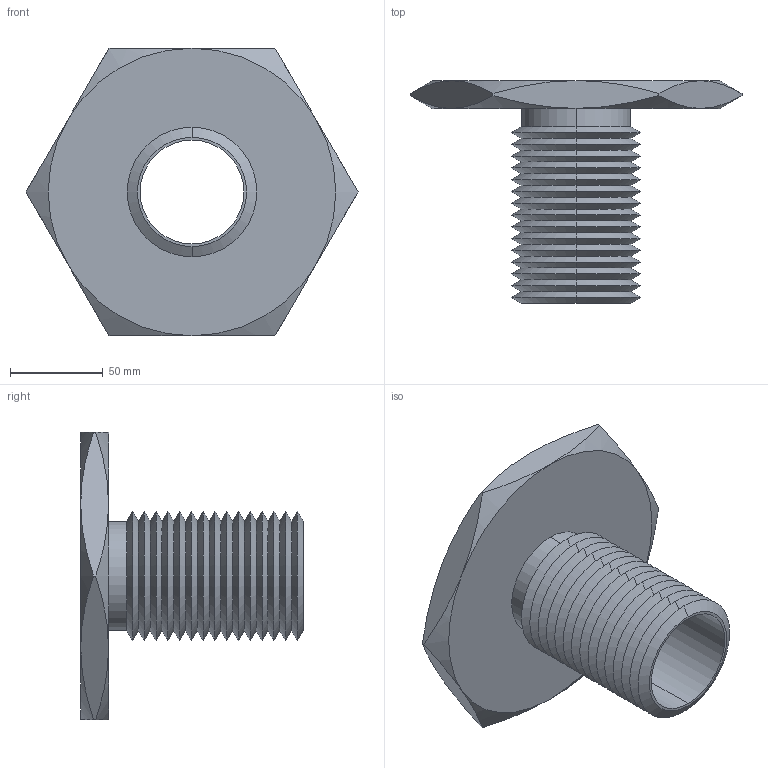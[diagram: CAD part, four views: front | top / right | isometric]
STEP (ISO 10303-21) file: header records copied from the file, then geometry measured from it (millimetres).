
FILE_DESCRIPTION (( 'STEP AP203' ), '1' );
FILE_NAME ('63302.W5275_M56x5,5.step', '2013-12-08T11:54:49', ( 'User' ), ( '' ), 'SwSTEP 2.0', 'SolidWorks 2009', '' );
FILE_SCHEMA (( 'CONFIG_CONTROL_DESIGN' ));
Length unit declared in the file: millimetre
Products named in the file (1): 63302.W5275_M56x5,5
Bounding box: 178.98 x 120 x 155 mm (x, y, z)
Volume: 342676.4 mm3; surface area: 103689.1 mm2
Topology: 1 solids, 1 shells, 87 faces, 178 edges, 94 vertices
Faces by surface type: cone 74, plane 9, cylinder 4
Entity records: 2479 total; most frequent: CARTESIAN_POINT 584, DIRECTION 412, ORIENTED_EDGE 356, EDGE_CURVE 178, AXIS2_PLACEMENT_3D 170, VERTEX_POINT 94, EDGE_LOOP 90, ADVANCED_FACE 87
